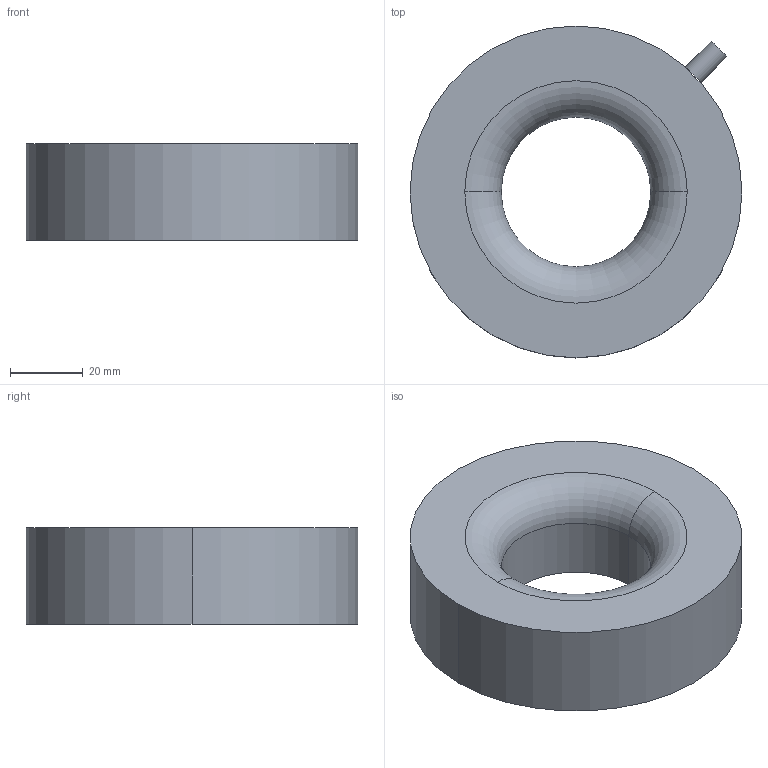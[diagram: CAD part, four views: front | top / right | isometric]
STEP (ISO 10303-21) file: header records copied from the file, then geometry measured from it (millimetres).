
FILE_DESCRIPTION (( 'STEP AP214' ), '1' );
FILE_NAME ('CE000379.STEP', '2021-08-05T15:14:10', ( '' ), ( '' ), 'SwSTEP 2.0', 'SolidWorks 2020', '' );
FILE_SCHEMA (( 'AUTOMOTIVE_DESIGN' ));
Length unit declared in the file: millimetre
Products named in the file (1): CE000379
Bounding box: 91 x 91 x 26.4 mm (x, y, z)
Volume: 133763.9 mm3; surface area: 21410.4 mm2
Topology: 2 solids, 2 shells, 28 faces, 62 edges, 34 vertices
Faces by surface type: cylinder 14, cone 8, plane 4, torus 2
Entity records: 912 total; most frequent: DIRECTION 144, CARTESIAN_POINT 117, ORIENTED_EDGE 108, AXIS2_PLACEMENT_3D 61, EDGE_CURVE 54, EDGE_LOOP 34, VERTEX_POINT 34, CIRCLE 32
